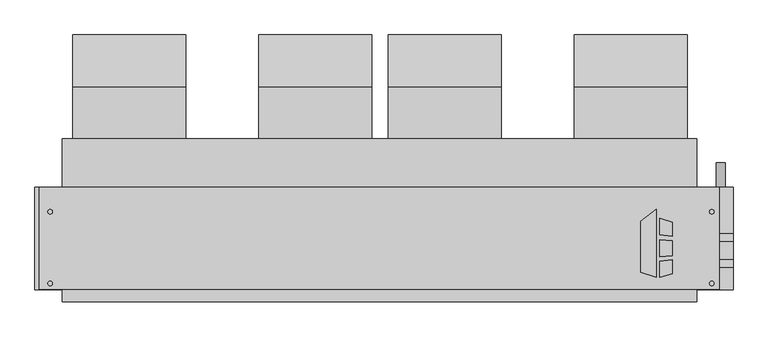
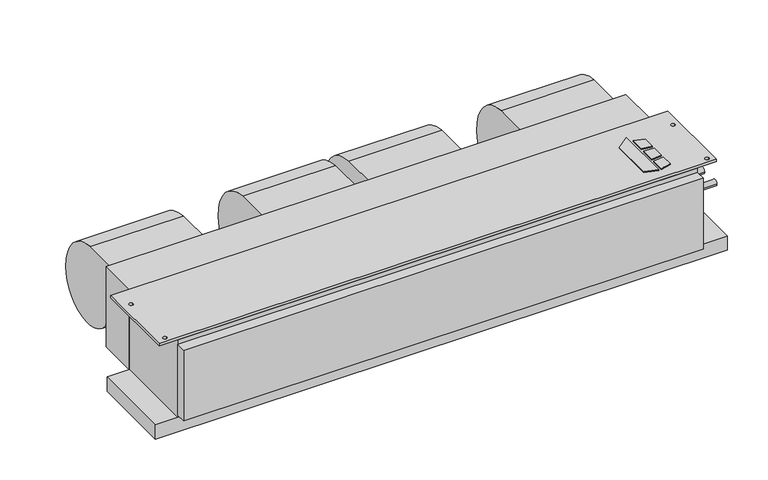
"""IFC4 building model written with IfcOpenShell, lengths in millimetres: proxy geometry, Concealed_Horizontal_Fan_Coil_Unit_-_CHY_-_IEC_-_2-Pipe_Cool-EHeat_RH_2022 : Size 10 - 277v/60Hz/1Ph - 4 Row 8.0kW."""

from ifc_helpers import new_model, si_unit, point, frame, frame_2d, origin, origin_with_axes, place, context, project, spatial, polyline, circle_curve, trimmed, segment, composite_curve, outline, extrude, source, transform, mapped, element, save


def mechanical_equipment_e52bd92c(model_context):
    return source(origin(), model_context, "Body", "SweptSolid", [
        extrude(outline(polyline([(696.6019761, -202.5703476), (729.1602728, -177.1330184), (729.1602728, -319.0875), (696.6019761, -308.8679201), (696.6019761, -202.5703476)])), origin_with_axes(), (0.0, 0.0, 1.0), 3.175),
        extrude(outline(polyline([(735.9186058, -230.442352), (735.9186058, -195.9624379), (762.0, -204.1490115), (762.0, -233.6447446), (735.9186058, -230.442352)])), origin_with_axes(), (0.0, 0.0, 1.0), 3.175),
        extrude(outline(polyline([(762.0, -312.0990115), (735.9186058, -319.0875), (735.9186058, -285.8661996), (762.0, -282.3243564), (762.0, -312.0990115)])), origin_with_axes(), (0.0, 0.0, 1.0), 3.175),
        extrude(outline(polyline([(762.0, -242.7263277), (762.0, -273.976483), (735.9186058, -276.717748), (735.9186058, -240.8600378), (762.0, -242.7263277)])), origin_with_axes(), (0.0, 0.0, 1.0), 3.175),
        extrude(outline(composite_curve([segment(trimmed(circle_curve(frame_2d((68.401169, -136.0299844)), 117.3559541), [point((77.7875, -19.05))], [point((185.7375, -138.176))], False, "CARTESIAN"), True, "CONTINUOUS"), segment(trimmed(circle_curve(frame_2d((90.0022663, -136.4250563)), 95.7512443), [point((185.7375, -138.176))], [point((77.7875, -231.394))], False, "CARTESIAN"), True, "CONTINUOUS"), segment(trimmed(circle_curve(frame_2d((89.9711869, -136.6666968)), 95.5076133), [point((77.7875, -231.394))], [point((-5.5245, -138.176))], False, "CARTESIAN"), True, "CONTINUOUS"), segment(trimmed(circle_curve(frame_2d((-24.6059828, -138.4775816)), 19.0838659), [point((-5.5245, -138.176))], [point((-17.7963373, -120.65))], True, "CARTESIAN"), True, "CONTINUOUS"), segment(polyline([(-17.7963373, -120.65), (-30.1625, -120.65), (-30.1625, -19.05), (77.7875, -19.05)]), True, "CONTINUOUS")], self_intersect=False)), frame((558.038, 0.0, 0.0), z_axis=(1.0, 0.0, 0.0), x_axis=(0.0, 1.0, 0.0)), (0.0, 0.0, 1.0), 235.712),
        extrude(outline(composite_curve([segment(trimmed(circle_curve(frame_2d((68.401169, -136.0299844)), 117.3559541), [point((77.7875, -19.05))], [point((185.7375, -138.176))], False, "CARTESIAN"), True, "CONTINUOUS"), segment(trimmed(circle_curve(frame_2d((90.0022663, -136.4250563)), 95.7512443), [point((185.7375, -138.176))], [point((77.7875, -231.394))], False, "CARTESIAN"), True, "CONTINUOUS"), segment(trimmed(circle_curve(frame_2d((89.9711869, -136.6666968)), 95.5076133), [point((77.7875, -231.394))], [point((-5.5245, -138.176))], False, "CARTESIAN"), True, "CONTINUOUS"), segment(trimmed(circle_curve(frame_2d((-24.6059828, -138.4775816)), 19.0838659), [point((-5.5245, -138.176))], [point((-17.7963373, -120.65))], True, "CARTESIAN"), True, "CONTINUOUS"), segment(polyline([(-17.7963373, -120.65), (-30.1625, -120.65), (-30.1625, -19.05), (77.7875, -19.05)]), True, "CONTINUOUS")], self_intersect=False)), frame((-486.537, 0.0, 0.0), z_axis=(1.0, 0.0, 0.0), x_axis=(0.0, 1.0, 0.0)), (0.0, 0.0, 1.0), 235.712),
        extrude(outline(composite_curve([segment(trimmed(circle_curve(frame_2d((68.401169, -136.0299844)), 117.3559541), [point((77.7875, -19.05))], [point((185.7375, -138.176))], False, "CARTESIAN"), True, "CONTINUOUS"), segment(trimmed(circle_curve(frame_2d((90.0022663, -136.4250563)), 95.7512443), [point((185.7375, -138.176))], [point((77.7875, -231.394))], False, "CARTESIAN"), True, "CONTINUOUS"), segment(trimmed(circle_curve(frame_2d((89.9711869, -136.6666968)), 95.5076133), [point((77.7875, -231.394))], [point((-5.5245, -138.176))], False, "CARTESIAN"), True, "CONTINUOUS"), segment(trimmed(circle_curve(frame_2d((-24.6059828, -138.4775816)), 19.0838659), [point((-5.5245, -138.176))], [point((-17.7963373, -120.65))], True, "CARTESIAN"), True, "CONTINUOUS"), segment(polyline([(-17.7963373, -120.65), (-30.1625, -120.65), (-30.1625, -19.05), (77.7875, -19.05)]), True, "CONTINUOUS")], self_intersect=False)), frame((-99.187, 0.0, 0.0), z_axis=(1.0, 0.0, 0.0), x_axis=(0.0, 1.0, 0.0)), (0.0, 0.0, 1.0), 235.712),
        extrude(outline(composite_curve([segment(trimmed(circle_curve(frame_2d((68.401169, -136.0299844)), 117.3559541), [point((77.7875, -19.05))], [point((185.7375, -138.176))], False, "CARTESIAN"), True, "CONTINUOUS"), segment(trimmed(circle_curve(frame_2d((90.0022663, -136.4250563)), 95.7512443), [point((185.7375, -138.176))], [point((77.7875, -231.394))], False, "CARTESIAN"), True, "CONTINUOUS"), segment(trimmed(circle_curve(frame_2d((89.9711869, -136.6666968)), 95.5076133), [point((77.7875, -231.394))], [point((-5.5245, -138.176))], False, "CARTESIAN"), True, "CONTINUOUS"), segment(trimmed(circle_curve(frame_2d((-24.6059828, -138.4775816)), 19.0838659), [point((-5.5245, -138.176))], [point((-17.7963373, -120.65))], True, "CARTESIAN"), True, "CONTINUOUS"), segment(polyline([(-17.7963373, -120.65), (-30.1625, -120.65), (-30.1625, -19.05), (77.7875, -19.05)]), True, "CONTINUOUS")], self_intersect=False)), frame((170.688, 0.0, 0.0), z_axis=(1.0, 0.0, 0.0), x_axis=(0.0, 1.0, 0.0)), (0.0, 0.0, 1.0), 235.712),
        extrude(outline(polyline([(860.425, -131.7625), (860.425, -344.4875), (-555.625, -344.4875), (-555.625, -131.7625), (860.425, -131.7625)]), holes=[composite_curve([segment(trimmed(circle_curve(frame_2d((-533.4, -182.5625)), 4.7625), [point((-538.1625, -182.5625))], [point((-528.6375, -182.5625))], True, "CARTESIAN"), True, "CONTINUOUS"), segment(trimmed(circle_curve(frame_2d((-533.4, -182.5625)), 4.7625), [point((-528.6375, -182.5625))], [point((-538.1625, -182.5625))], True, "CARTESIAN"), True, "CONTINUOUS")], self_intersect=False), composite_curve([segment(trimmed(circle_curve(frame_2d((-533.4, -331.7875)), 4.7625), [point((-538.1625, -331.7875))], [point((-528.6375, -331.7875))], True, "CARTESIAN"), True, "CONTINUOUS"), segment(trimmed(circle_curve(frame_2d((-533.4, -331.7875)), 4.7625), [point((-528.6375, -331.7875))], [point((-538.1625, -331.7875))], True, "CARTESIAN"), True, "CONTINUOUS")], self_intersect=False), composite_curve([segment(trimmed(circle_curve(frame_2d((844.55, -182.5625)), 4.7625), [point((839.7875, -182.5625))], [point((849.3125, -182.5625))], True, "CARTESIAN"), True, "CONTINUOUS"), segment(trimmed(circle_curve(frame_2d((844.55, -182.5625)), 4.7625), [point((849.3125, -182.5625))], [point((839.7875, -182.5625))], True, "CARTESIAN"), True, "CONTINUOUS")], self_intersect=False), composite_curve([segment(trimmed(circle_curve(frame_2d((844.55, -331.7875)), 4.7625), [point((839.7875, -331.7875))], [point((849.3125, -331.7875))], True, "CARTESIAN"), True, "CONTINUOUS"), segment(trimmed(circle_curve(frame_2d((844.55, -331.7875)), 4.7625), [point((849.3125, -331.7875))], [point((839.7875, -331.7875))], True, "CARTESIAN"), True, "CONTINUOUS")], self_intersect=False)]), frame((0.0, 0.0, -6.35), z_axis=(0.0, 0.0, 1.0), x_axis=(1.0, 0.0, 0.0)), (0.0, 0.0, 1.0), 6.35),
        extrude(outline(polyline([(-508.0, -30.1625), (812.8, -30.1625), (812.8, -131.7625), (-508.0, -131.7625), (-508.0, -30.1625)])), frame((0.0, 0.0, -215.9), z_axis=(0.0, 0.0, 1.0), x_axis=(1.0, 0.0, 0.0)), (0.0, 0.0, 1.0), 215.9),
        extrude(outline(composite_curve([segment(trimmed(circle_curve(frame_2d((-241.3, 863.6)), 9.525), [point((-241.3, 854.075))], [point((-241.3, 873.125))], False, "CARTESIAN"), True, "CONTINUOUS"), segment(trimmed(circle_curve(frame_2d((-241.3, 863.6)), 9.525), [point((-241.3, 873.125))], [point((-241.3, 854.075))], False, "CARTESIAN"), True, "CONTINUOUS")], self_intersect=False)), frame((0.0, -131.7625, 0.0), z_axis=(0.0, 1.0, 0.0), x_axis=(0.0, 0.0, 1.0)), (0.0, 0.0, 1.0), 50.8),
        extrude(outline(polyline([(812.8, -369.8875), (-508.0, -369.8875), (-508.0, -344.4875), (812.8, -344.4875), (812.8, -369.8875)])), frame((0.0, 0.0, -209.55), z_axis=(0.0, 0.0, 1.0), x_axis=(1.0, 0.0, 0.0)), (0.0, 0.0, 1.0), 190.5),
        extrude(outline(polyline([(889.0, -131.7625), (889.0, -344.4875), (-565.15, -344.4875), (-565.15, -131.7625), (889.0, -131.7625)])), frame((0.0, 0.0, -254.0), z_axis=(0.0, 0.0, 1.0), x_axis=(1.0, 0.0, 0.0)), (0.0, 0.0, 1.0), 38.1),
        extrude(outline(composite_curve([segment(trimmed(circle_curve(frame_2d((-290.5125, -104.775)), 7.9375), [point((-298.45, -104.775))], [point((-282.575, -104.775))], False, "CARTESIAN"), True, "CONTINUOUS"), segment(trimmed(circle_curve(frame_2d((-290.5125, -104.775)), 7.9375), [point((-282.575, -104.775))], [point((-298.45, -104.775))], False, "CARTESIAN"), True, "CONTINUOUS")], self_intersect=False)), frame((812.8, 0.0, 0.0), z_axis=(1.0, 0.0, 0.0), x_axis=(0.0, 1.0, 0.0)), (0.0, 0.0, 1.0), 76.2),
        extrude(outline(composite_curve([segment(trimmed(circle_curve(frame_2d((-236.5375, -104.775)), 7.9375), [point((-244.475, -104.775))], [point((-228.6, -104.775))], False, "CARTESIAN"), True, "CONTINUOUS"), segment(trimmed(circle_curve(frame_2d((-236.5375, -104.775)), 7.9375), [point((-228.6, -104.775))], [point((-244.475, -104.775))], False, "CARTESIAN"), True, "CONTINUOUS")], self_intersect=False)), frame((812.8, 0.0, 0.0), z_axis=(1.0, 0.0, 0.0), x_axis=(0.0, 1.0, 0.0)), (0.0, 0.0, 1.0), 76.2),
        extrude(outline(polyline([(812.8, -344.4875), (-508.0, -344.4875), (-508.0, -131.7625), (812.8, -131.7625), (812.8, -344.4875)])), frame((0.0, 0.0, -215.9), z_axis=(0.0, 0.0, 1.0), x_axis=(1.0, 0.0, 0.0)), (0.0, 0.0, 1.0), 209.55),
    ])


if __name__ == "__main__":
    model = new_model("IFC4")
    model_context = context("Model", 3, world=origin())
    ifc_project = project(units=[si_unit("LENGTHUNIT", "METRE", prefix="MILLI")], contexts=[model_context])
    site = spatial("IfcSite", under=ifc_project)
    building = spatial("IfcBuilding", under=site)
    placement = place(None, origin())
    mechanical_equipment_shape = mechanical_equipment_e52bd92c(model_context)
    element("IfcBuildingElementProxy", 1, Name="Concealed_Horizontal_Fan_Coil_Unit_-_CHY_-_IEC_-_2-Pipe_Cool-EHeat_RH_2022 : Size 10 - 277v/60Hz/1Ph - 4 Row 8.0kW", ObjectType="Concealed_Horizontal_Fan_Coil_Unit_-_CHY_-_IEC_-_2-Pipe_Cool-EHeat_RH_2022 : Size 10 - 277v/60Hz/1Ph - 4 Row 8.0kW", at=placement, inside=building, context=model_context, shape_type="MappedRepresentation", body=[
        mapped(mechanical_equipment_shape, transform((0.0, 0.0, 0.0), x_axis=(1.0, 0.0, 0.0), y_axis=(0.0, 1.0, 0.0), z_axis=(0.0, 0.0, 1.0))),
    ])
    save(model, "model.ifc")
